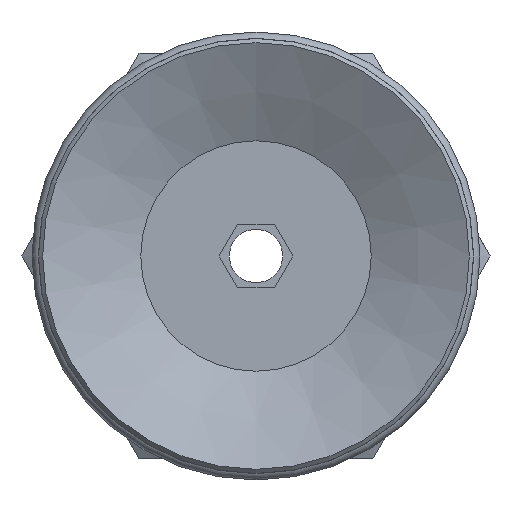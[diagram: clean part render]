
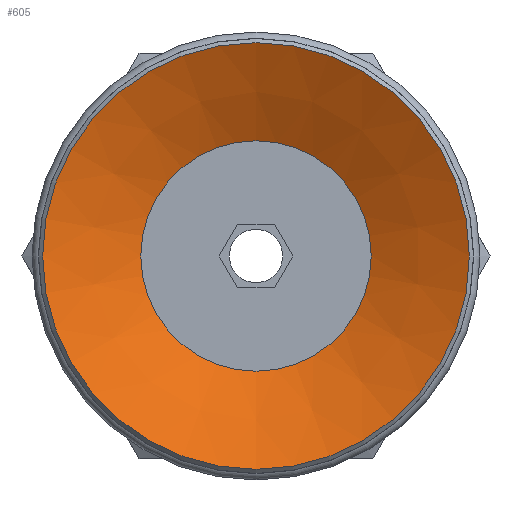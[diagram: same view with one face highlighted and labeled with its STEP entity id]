
A CAD part, front view. The second image highlights one B-rep face of the part: STEP entity #605.
In plain terms, the highlighted conical face has half-angle 63 degrees and reference radius 5.4 mm.
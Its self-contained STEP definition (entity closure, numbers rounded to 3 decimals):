
#605=ADVANCED_FACE('',(#891,#892),#893,.F.);
#891=FACE_BOUND('',#1274,.T.);
#892=FACE_OUTER_BOUND('',#1275,.T.);
#893=CONICAL_SURFACE('',#1276,5.4,1.1);
#1274=EDGE_LOOP('',(#2269));
#1275=EDGE_LOOP('',(#2270));
#1276=AXIS2_PLACEMENT_3D('',#2271,#2272,#2273);
#2269=ORIENTED_EDGE('',*,*,#2814,.F.);
#2270=ORIENTED_EDGE('',*,*,#2815,.T.);
#2271=CARTESIAN_POINT('',(0.0,5.518,0.0));
#2272=DIRECTION('',(-0.0,-1.0,0.));
#2273=DIRECTION('',(0.0,0.,-1.0));
#2814=EDGE_CURVE('',#3206,#3206,#3207,.T.);
#2815=EDGE_CURVE('',#3208,#3208,#3209,.T.);
#3206=VERTEX_POINT('',#4056);
#3207=CIRCLE('',#4057,5.4);
#3208=VERTEX_POINT('',#4058);
#3209=CIRCLE('',#4059,10.0);
#4056=CARTESIAN_POINT('',(0.0,5.518,-5.4));
#4057=AXIS2_PLACEMENT_3D('',#4812,#4813,#4814);
#4058=CARTESIAN_POINT('',(0.0,3.175,-10.0));
#4059=AXIS2_PLACEMENT_3D('',#4815,#4816,#4817);
#4812=CARTESIAN_POINT('',(0.0,5.518,0.0));
#4813=DIRECTION('',(0.0,-1.0,0.));
#4814=DIRECTION('',(0.0,0.,-1.0));
#4815=CARTESIAN_POINT('',(0.0,3.175,0.0));
#4816=DIRECTION('',(0.0,-1.0,0.));
#4817=DIRECTION('',(0.0,0.,-1.0));
